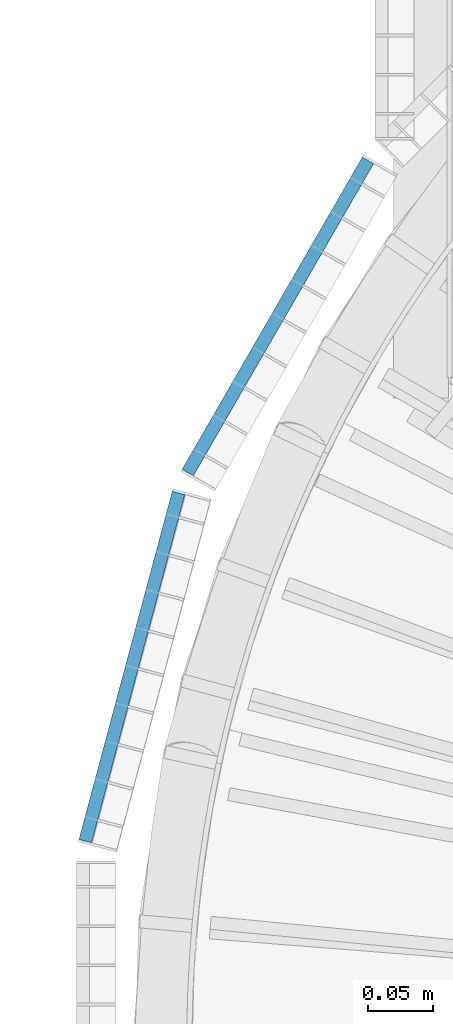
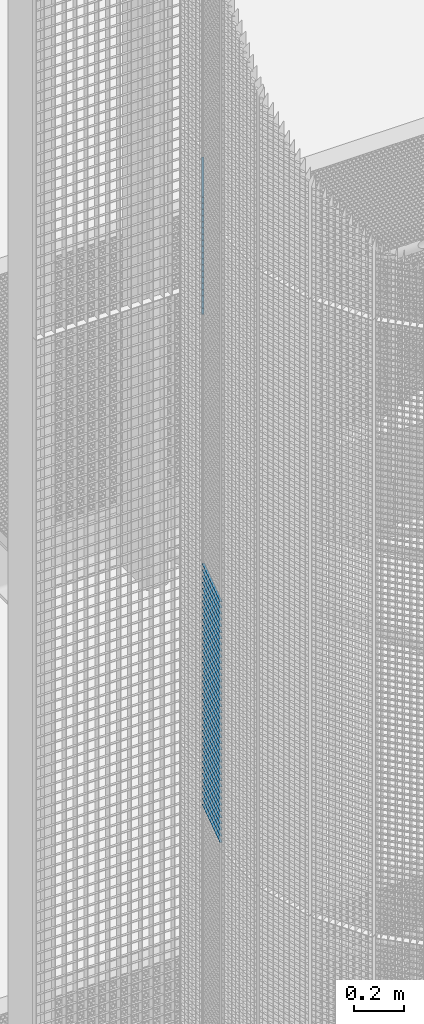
# One storey, part 191 of 1148: 60 beams, 2 elements without a shape of their own.
"""IFC2X3 building model written with IfcOpenShell, lengths in millimetres."""

from ifc_helpers import new_model, si_unit, frame, origin_with_axes, origin_2d_with_axis, place, context, subcontext, project, spatial, rectangle, extrude, material, type_object, element, aggregate, save


model = new_model("IFC2X3")

# Units and contexts
model_context = context("Model", 3, precision=1e-05, world=origin_with_axes())
body_context = subcontext(model_context, "Body", "Model", "MODEL_VIEW")
ifc_project = project(units=[si_unit("LENGTHUNIT", "METRE", prefix="MILLI"), si_unit("AREAUNIT", "SQUARE_METRE"), si_unit("VOLUMEUNIT", "CUBIC_METRE"), si_unit("MASSUNIT", "GRAM", prefix="KILO"), si_unit("TIMEUNIT", "SECOND"), si_unit("PLANEANGLEUNIT", "RADIAN"), si_unit("SOLIDANGLEUNIT", "STERADIAN"), si_unit("THERMODYNAMICTEMPERATUREUNIT", "DEGREE_CELSIUS"), si_unit("LUMINOUSINTENSITYUNIT", "LUMEN")], contexts=[model_context])

# Site, building, storey
site_placement = place(None, origin_with_axes())
site = spatial("IfcSite", under=ifc_project, at=site_placement, Name="Undefined", CompositionType="ELEMENT")
building_placement = place(site_placement, origin_with_axes())
building = spatial("IfcBuilding", under=site, at=building_placement, Name="Undefined", CompositionType="ELEMENT")
storey_placement = place(building_placement, origin_with_axes())
storey = spatial("IfcBuildingStorey", under=building, at=storey_placement, Name="Undefined", CompositionType="ELEMENT", Elevation=0.0)

# Assembly, beams
assembly_1_placement = place(storey_placement, origin_with_axes())
assembly_1 = element("IfcElementAssembly", 1, at=assembly_1_placement, inside=storey, Name="BORDURE", AssemblyPlace="NOTDEFINED", PredefinedType="NOTDEFINED")
ifc_material = material(Name="STEEL/S235JR")
beam_type = type_object("IfcBeamType", Name="PL2*10", PredefinedType="NOTDEFINED")
beam_1_placement = place(assembly_1_placement, frame((-1040.30888419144, 421.618038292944, 10200.0), z_axis=(-0.965925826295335, 0.258819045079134, 0.0), x_axis=(-0.258819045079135, -0.965925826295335, 0.0)))
beam_1 = element("IfcBeam", 2, at=beam_1_placement, type_object=beam_type, material=ifc_material, Name="ENTRETOISE", context=body_context, shape_type="SweptSolid", body=[
    extrude(rectangle(XDim=2.0, YDim=10.0, at=origin_2d_with_axis()), frame((275.999999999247, 9.09494701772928e-13, 1.53210777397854e-14), z_axis=(-1.0, 0.0, 0.0), x_axis=(0.0, -1.0, 0.0)), (0.0, 0.0, 1.0), 276.0),
])
beam_2_placement = place(assembly_1_placement, frame((-1040.30888419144, 421.618038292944, 10170.0), z_axis=(-0.965925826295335, 0.258819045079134, 0.0), x_axis=(-0.258819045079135, -0.965925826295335, 0.0)))
beam_2 = element("IfcBeam", 3, at=beam_2_placement, type_object=beam_type, material=ifc_material, Name="ENTRETOISE", context=body_context, shape_type="SweptSolid", body=[
    extrude(rectangle(XDim=2.0, YDim=10.0, at=origin_2d_with_axis()), frame((275.999999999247, 9.09494701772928e-13, 1.53210777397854e-14), z_axis=(-1.0, 0.0, 0.0), x_axis=(0.0, -1.0, 0.0)), (0.0, 0.0, 1.0), 276.0),
])
beam_3_placement = place(assembly_1_placement, frame((-1040.30888419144, 421.618038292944, 10140.0), z_axis=(-0.965925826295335, 0.258819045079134, 0.0), x_axis=(-0.258819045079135, -0.965925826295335, 0.0)))
beam_3 = element("IfcBeam", 4, at=beam_3_placement, type_object=beam_type, material=ifc_material, Name="ENTRETOISE", context=body_context, shape_type="SweptSolid", body=[
    extrude(rectangle(XDim=2.0, YDim=10.0, at=origin_2d_with_axis()), frame((275.999999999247, 9.09494701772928e-13, 1.53210777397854e-14), z_axis=(-1.0, 0.0, 0.0), x_axis=(0.0, -1.0, 0.0)), (0.0, 0.0, 1.0), 276.0),
])
beam_4_placement = place(assembly_1_placement, frame((-1040.30888419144, 421.618038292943, 9720.0), z_axis=(-0.965925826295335, 0.258819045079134, 0.0), x_axis=(-0.258819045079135, -0.965925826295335, 0.0)))
beam_4 = element("IfcBeam", 5, at=beam_4_placement, type_object=beam_type, material=ifc_material, Name="ENTRETOISE", context=body_context, shape_type="SweptSolid", body=[
    extrude(rectangle(XDim=2.0, YDim=10.0, at=origin_2d_with_axis()), frame((275.999999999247, 9.09494701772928e-13, 1.53210777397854e-14), z_axis=(-1.0, 0.0, 0.0), x_axis=(0.0, -1.0, 0.0)), (0.0, 0.0, 1.0), 276.0),
])
beam_5_placement = place(assembly_1_placement, frame((-1040.30888419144, 421.618038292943, 9690.0), z_axis=(-0.965925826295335, 0.258819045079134, 0.0), x_axis=(-0.258819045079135, -0.965925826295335, 0.0)))
beam_5 = element("IfcBeam", 6, at=beam_5_placement, type_object=beam_type, material=ifc_material, Name="ENTRETOISE", context=body_context, shape_type="SweptSolid", body=[
    extrude(rectangle(XDim=2.0, YDim=10.0, at=origin_2d_with_axis()), frame((275.999999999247, 9.09494701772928e-13, 1.53210777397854e-14), z_axis=(-1.0, 0.0, 0.0), x_axis=(0.0, -1.0, 0.0)), (0.0, 0.0, 1.0), 276.0),
])
beam_6_placement = place(assembly_1_placement, frame((-1040.30888419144, 421.618038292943, 9750.0), z_axis=(-0.965925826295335, 0.258819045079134, 0.0), x_axis=(-0.258819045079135, -0.965925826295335, 0.0)))
beam_6 = element("IfcBeam", 7, at=beam_6_placement, type_object=beam_type, material=ifc_material, Name="ENTRETOISE", context=body_context, shape_type="SweptSolid", body=[
    extrude(rectangle(XDim=2.0, YDim=10.0, at=origin_2d_with_axis()), frame((275.999999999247, 9.09494701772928e-13, 1.53210777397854e-14), z_axis=(-1.0, 0.0, 0.0), x_axis=(0.0, -1.0, 0.0)), (0.0, 0.0, 1.0), 276.0),
])
beam_7_placement = place(assembly_1_placement, frame((-1040.30888419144, 421.618038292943, 9660.0), z_axis=(-0.965925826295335, 0.258819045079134, 0.0), x_axis=(-0.258819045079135, -0.965925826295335, 0.0)))
beam_7 = element("IfcBeam", 8, at=beam_7_placement, type_object=beam_type, material=ifc_material, Name="ENTRETOISE", context=body_context, shape_type="SweptSolid", body=[
    extrude(rectangle(XDim=2.0, YDim=10.0, at=origin_2d_with_axis()), frame((275.999999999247, 9.09494701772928e-13, 1.53210777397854e-14), z_axis=(-1.0, 0.0, 0.0), x_axis=(0.0, -1.0, 0.0)), (0.0, 0.0, 1.0), 276.0),
])
beam_8_placement = place(assembly_1_placement, frame((-1040.30888419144, 421.618038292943, 9630.0), z_axis=(-0.965925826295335, 0.258819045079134, 0.0), x_axis=(-0.258819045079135, -0.965925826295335, 0.0)))
beam_8 = element("IfcBeam", 9, at=beam_8_placement, type_object=beam_type, material=ifc_material, Name="ENTRETOISE", context=body_context, shape_type="SweptSolid", body=[
    extrude(rectangle(XDim=2.0, YDim=10.0, at=origin_2d_with_axis()), frame((275.999999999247, 9.09494701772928e-13, 1.53210777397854e-14), z_axis=(-1.0, 0.0, 0.0), x_axis=(0.0, -1.0, 0.0)), (0.0, 0.0, 1.0), 276.0),
])
beam_9_placement = place(assembly_1_placement, frame((-1040.30888419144, 421.618038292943, 9780.0), z_axis=(-0.965925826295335, 0.258819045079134, 0.0), x_axis=(-0.258819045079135, -0.965925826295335, 0.0)))
beam_9 = element("IfcBeam", 10, at=beam_9_placement, type_object=beam_type, material=ifc_material, Name="ENTRETOISE", context=body_context, shape_type="SweptSolid", body=[
    extrude(rectangle(XDim=2.0, YDim=10.0, at=origin_2d_with_axis()), frame((275.999999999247, 9.09494701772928e-13, 1.53210777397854e-14), z_axis=(-1.0, 0.0, 0.0), x_axis=(0.0, -1.0, 0.0)), (0.0, 0.0, 1.0), 276.0),
])
beam_10_placement = place(assembly_1_placement, frame((-1040.30888419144, 421.618038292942, 9600.0), z_axis=(-0.965925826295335, 0.258819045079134, 0.0), x_axis=(-0.258819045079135, -0.965925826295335, 0.0)))
beam_10 = element("IfcBeam", 11, at=beam_10_placement, type_object=beam_type, material=ifc_material, Name="ENTRETOISE", context=body_context, shape_type="SweptSolid", body=[
    extrude(rectangle(XDim=2.0, YDim=10.0, at=origin_2d_with_axis()), frame((275.999999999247, 9.09494701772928e-13, 1.53210777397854e-14), z_axis=(-1.0, 0.0, 0.0), x_axis=(0.0, -1.0, 0.0)), (0.0, 0.0, 1.0), 276.0),
])
beam_11_placement = place(assembly_1_placement, frame((-1040.30888419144, 421.618038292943, 9810.0), z_axis=(-0.965925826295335, 0.258819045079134, 0.0), x_axis=(-0.258819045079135, -0.965925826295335, 0.0)))
beam_11 = element("IfcBeam", 12, at=beam_11_placement, type_object=beam_type, material=ifc_material, Name="ENTRETOISE", context=body_context, shape_type="SweptSolid", body=[
    extrude(rectangle(XDim=2.0, YDim=10.0, at=origin_2d_with_axis()), frame((275.999999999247, 9.09494701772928e-13, 1.53210777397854e-14), z_axis=(-1.0, 0.0, 0.0), x_axis=(0.0, -1.0, 0.0)), (0.0, 0.0, 1.0), 276.0),
])
beam_12_placement = place(assembly_1_placement, frame((-1040.30888419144, 421.618038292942, 9570.0), z_axis=(-0.965925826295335, 0.258819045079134, 0.0), x_axis=(-0.258819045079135, -0.965925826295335, 0.0)))
beam_12 = element("IfcBeam", 13, at=beam_12_placement, type_object=beam_type, material=ifc_material, Name="ENTRETOISE", context=body_context, shape_type="SweptSolid", body=[
    extrude(rectangle(XDim=2.0, YDim=10.0, at=origin_2d_with_axis()), frame((275.999999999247, 9.09494701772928e-13, 1.53210777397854e-14), z_axis=(-1.0, 0.0, 0.0), x_axis=(0.0, -1.0, 0.0)), (0.0, 0.0, 1.0), 276.0),
])
beam_13_placement = place(assembly_1_placement, frame((-1040.30888419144, 421.618038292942, 9540.0), z_axis=(-0.965925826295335, 0.258819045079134, 0.0), x_axis=(-0.258819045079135, -0.965925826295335, 0.0)))
beam_13 = element("IfcBeam", 14, at=beam_13_placement, type_object=beam_type, material=ifc_material, Name="ENTRETOISE", context=body_context, shape_type="SweptSolid", body=[
    extrude(rectangle(XDim=2.0, YDim=10.0, at=origin_2d_with_axis()), frame((275.999999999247, 9.09494701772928e-13, 1.53210777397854e-14), z_axis=(-1.0, 0.0, 0.0), x_axis=(0.0, -1.0, 0.0)), (0.0, 0.0, 1.0), 276.0),
])
beam_14_placement = place(assembly_1_placement, frame((-1040.30888419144, 421.618038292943, 9840.0), z_axis=(-0.965925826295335, 0.258819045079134, 0.0), x_axis=(-0.258819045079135, -0.965925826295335, 0.0)))
beam_14 = element("IfcBeam", 15, at=beam_14_placement, type_object=beam_type, material=ifc_material, Name="ENTRETOISE", context=body_context, shape_type="SweptSolid", body=[
    extrude(rectangle(XDim=2.0, YDim=10.0, at=origin_2d_with_axis()), frame((275.999999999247, 9.09494701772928e-13, 1.53210777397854e-14), z_axis=(-1.0, 0.0, 0.0), x_axis=(0.0, -1.0, 0.0)), (0.0, 0.0, 1.0), 276.0),
])
beam_15_placement = place(assembly_1_placement, frame((-1040.30888419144, 421.618038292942, 9510.0), z_axis=(-0.965925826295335, 0.258819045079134, 0.0), x_axis=(-0.258819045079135, -0.965925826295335, 0.0)))
beam_15 = element("IfcBeam", 16, at=beam_15_placement, type_object=beam_type, material=ifc_material, Name="ENTRETOISE", context=body_context, shape_type="SweptSolid", body=[
    extrude(rectangle(XDim=2.0, YDim=10.0, at=origin_2d_with_axis()), frame((275.999999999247, 9.09494701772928e-13, 1.53210777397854e-14), z_axis=(-1.0, 0.0, 0.0), x_axis=(0.0, -1.0, 0.0)), (0.0, 0.0, 1.0), 276.0),
])
beam_16_placement = place(assembly_1_placement, frame((-1040.30888419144, 421.618038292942, 9480.0), z_axis=(-0.965925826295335, 0.258819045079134, 0.0), x_axis=(-0.258819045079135, -0.965925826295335, 0.0)))
beam_16 = element("IfcBeam", 17, at=beam_16_placement, type_object=beam_type, material=ifc_material, Name="ENTRETOISE", context=body_context, shape_type="SweptSolid", body=[
    extrude(rectangle(XDim=2.0, YDim=10.0, at=origin_2d_with_axis()), frame((275.999999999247, 9.09494701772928e-13, 1.53210777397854e-14), z_axis=(-1.0, 0.0, 0.0), x_axis=(0.0, -1.0, 0.0)), (0.0, 0.0, 1.0), 276.0),
])
beam_17_placement = place(assembly_1_placement, frame((-1040.30888419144, 421.618038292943, 9870.0), z_axis=(-0.965925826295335, 0.258819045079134, 0.0), x_axis=(-0.258819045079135, -0.965925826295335, 0.0)))
beam_17 = element("IfcBeam", 18, at=beam_17_placement, type_object=beam_type, material=ifc_material, Name="ENTRETOISE", context=body_context, shape_type="SweptSolid", body=[
    extrude(rectangle(XDim=2.0, YDim=10.0, at=origin_2d_with_axis()), frame((275.999999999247, 9.09494701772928e-13, 1.53210777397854e-14), z_axis=(-1.0, 0.0, 0.0), x_axis=(0.0, -1.0, 0.0)), (0.0, 0.0, 1.0), 276.0),
])
beam_18_placement = place(assembly_1_placement, frame((-1040.30888419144, 421.618038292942, 9450.0), z_axis=(-0.965925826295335, 0.258819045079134, 0.0), x_axis=(-0.258819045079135, -0.965925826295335, 0.0)))
beam_18 = element("IfcBeam", 19, at=beam_18_placement, type_object=beam_type, material=ifc_material, Name="ENTRETOISE", context=body_context, shape_type="SweptSolid", body=[
    extrude(rectangle(XDim=2.0, YDim=10.0, at=origin_2d_with_axis()), frame((275.999999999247, 9.09494701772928e-13, 1.53210777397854e-14), z_axis=(-1.0, 0.0, 0.0), x_axis=(0.0, -1.0, 0.0)), (0.0, 0.0, 1.0), 276.0),
])
beam_19_placement = place(assembly_1_placement, frame((-1040.30888419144, 421.618038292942, 9420.0), z_axis=(-0.965925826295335, 0.258819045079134, 0.0), x_axis=(-0.258819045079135, -0.965925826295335, 0.0)))
beam_19 = element("IfcBeam", 20, at=beam_19_placement, type_object=beam_type, material=ifc_material, Name="ENTRETOISE", context=body_context, shape_type="SweptSolid", body=[
    extrude(rectangle(XDim=2.0, YDim=10.0, at=origin_2d_with_axis()), frame((275.999999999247, 9.09494701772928e-13, 1.53210777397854e-14), z_axis=(-1.0, 0.0, 0.0), x_axis=(0.0, -1.0, 0.0)), (0.0, 0.0, 1.0), 276.0),
])
beam_20_placement = place(assembly_1_placement, frame((-1040.30888419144, 421.618038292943, 9900.0), z_axis=(-0.965925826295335, 0.258819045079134, 0.0), x_axis=(-0.258819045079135, -0.965925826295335, 0.0)))
beam_20 = element("IfcBeam", 21, at=beam_20_placement, type_object=beam_type, material=ifc_material, Name="ENTRETOISE", context=body_context, shape_type="SweptSolid", body=[
    extrude(rectangle(XDim=2.0, YDim=10.0, at=origin_2d_with_axis()), frame((275.999999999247, 9.09494701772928e-13, 1.53210777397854e-14), z_axis=(-1.0, 0.0, 0.0), x_axis=(0.0, -1.0, 0.0)), (0.0, 0.0, 1.0), 276.0),
])
beam_21_placement = place(assembly_1_placement, frame((-1040.30888419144, 421.618038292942, 9390.0), z_axis=(-0.965925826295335, 0.258819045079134, 0.0), x_axis=(-0.258819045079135, -0.965925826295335, 0.0)))
beam_21 = element("IfcBeam", 22, at=beam_21_placement, type_object=beam_type, material=ifc_material, Name="ENTRETOISE", context=body_context, shape_type="SweptSolid", body=[
    extrude(rectangle(XDim=2.0, YDim=10.0, at=origin_2d_with_axis()), frame((275.999999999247, 9.09494701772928e-13, 1.53210777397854e-14), z_axis=(-1.0, 0.0, 0.0), x_axis=(0.0, -1.0, 0.0)), (0.0, 0.0, 1.0), 276.0),
])
beam_22_placement = place(assembly_1_placement, frame((-1040.30888419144, 421.618038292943, 9930.0), z_axis=(-0.965925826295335, 0.258819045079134, 0.0), x_axis=(-0.258819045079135, -0.965925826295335, 0.0)))
beam_22 = element("IfcBeam", 23, at=beam_22_placement, type_object=beam_type, material=ifc_material, Name="ENTRETOISE", context=body_context, shape_type="SweptSolid", body=[
    extrude(rectangle(XDim=2.0, YDim=10.0, at=origin_2d_with_axis()), frame((275.999999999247, 9.09494701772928e-13, 1.53210777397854e-14), z_axis=(-1.0, 0.0, 0.0), x_axis=(0.0, -1.0, 0.0)), (0.0, 0.0, 1.0), 276.0),
])
beam_23_placement = place(assembly_1_placement, frame((-1040.30888419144, 421.618038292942, 9360.0), z_axis=(-0.965925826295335, 0.258819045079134, 0.0), x_axis=(-0.258819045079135, -0.965925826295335, 0.0)))
beam_23 = element("IfcBeam", 24, at=beam_23_placement, type_object=beam_type, material=ifc_material, Name="ENTRETOISE", context=body_context, shape_type="SweptSolid", body=[
    extrude(rectangle(XDim=2.0, YDim=10.0, at=origin_2d_with_axis()), frame((275.999999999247, 9.09494701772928e-13, 1.53210777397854e-14), z_axis=(-1.0, 0.0, 0.0), x_axis=(0.0, -1.0, 0.0)), (0.0, 0.0, 1.0), 276.0),
])
beam_24_placement = place(assembly_1_placement, frame((-1040.30888419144, 421.618038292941, 9330.0), z_axis=(-0.965925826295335, 0.258819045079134, 0.0), x_axis=(-0.258819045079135, -0.965925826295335, 0.0)))
beam_24 = element("IfcBeam", 25, at=beam_24_placement, type_object=beam_type, material=ifc_material, Name="ENTRETOISE", context=body_context, shape_type="SweptSolid", body=[
    extrude(rectangle(XDim=2.0, YDim=10.0, at=origin_2d_with_axis()), frame((275.999999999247, 9.09494701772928e-13, 1.53210777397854e-14), z_axis=(-1.0, 0.0, 0.0), x_axis=(0.0, -1.0, 0.0)), (0.0, 0.0, 1.0), 276.0),
])
beam_25_placement = place(assembly_1_placement, frame((-1040.30888419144, 421.618038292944, 9960.0), z_axis=(-0.965925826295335, 0.258819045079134, 0.0), x_axis=(-0.258819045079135, -0.965925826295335, 0.0)))
beam_25 = element("IfcBeam", 26, at=beam_25_placement, type_object=beam_type, material=ifc_material, Name="ENTRETOISE", context=body_context, shape_type="SweptSolid", body=[
    extrude(rectangle(XDim=2.0, YDim=10.0, at=origin_2d_with_axis()), frame((275.999999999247, 9.09494701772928e-13, 1.53210777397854e-14), z_axis=(-1.0, 0.0, 0.0), x_axis=(0.0, -1.0, 0.0)), (0.0, 0.0, 1.0), 276.0),
])
beam_26_placement = place(assembly_1_placement, frame((-1040.30888419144, 421.618038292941, 9300.0), z_axis=(-0.965925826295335, 0.258819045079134, 0.0), x_axis=(-0.258819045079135, -0.965925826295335, 0.0)))
beam_26 = element("IfcBeam", 27, at=beam_26_placement, type_object=beam_type, material=ifc_material, Name="ENTRETOISE", context=body_context, shape_type="SweptSolid", body=[
    extrude(rectangle(XDim=2.0, YDim=10.0, at=origin_2d_with_axis()), frame((275.999999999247, 9.09494701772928e-13, 1.53210777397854e-14), z_axis=(-1.0, 0.0, 0.0), x_axis=(0.0, -1.0, 0.0)), (0.0, 0.0, 1.0), 276.0),
])
beam_27_placement = place(assembly_1_placement, frame((-1040.30888419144, 421.618038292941, 9270.0), z_axis=(-0.965925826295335, 0.258819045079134, 0.0), x_axis=(-0.258819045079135, -0.965925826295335, 0.0)))
beam_27 = element("IfcBeam", 28, at=beam_27_placement, type_object=beam_type, material=ifc_material, Name="ENTRETOISE", context=body_context, shape_type="SweptSolid", body=[
    extrude(rectangle(XDim=2.0, YDim=10.0, at=origin_2d_with_axis()), frame((275.999999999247, 9.09494701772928e-13, 1.53210777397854e-14), z_axis=(-1.0, 0.0, 0.0), x_axis=(0.0, -1.0, 0.0)), (0.0, 0.0, 1.0), 276.0),
])
beam_28_placement = place(assembly_1_placement, frame((-1040.30888419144, 421.618038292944, 9990.0), z_axis=(-0.965925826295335, 0.258819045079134, 0.0), x_axis=(-0.258819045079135, -0.965925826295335, 0.0)))
beam_28 = element("IfcBeam", 29, at=beam_28_placement, type_object=beam_type, material=ifc_material, Name="ENTRETOISE", context=body_context, shape_type="SweptSolid", body=[
    extrude(rectangle(XDim=2.0, YDim=10.0, at=origin_2d_with_axis()), frame((275.999999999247, 9.09494701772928e-13, 1.53210777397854e-14), z_axis=(-1.0, 0.0, 0.0), x_axis=(0.0, -1.0, 0.0)), (0.0, 0.0, 1.0), 276.0),
])
beam_29_placement = place(assembly_1_placement, frame((-1040.30888419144, 421.618038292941, 9240.0), z_axis=(-0.965925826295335, 0.258819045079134, 0.0), x_axis=(-0.258819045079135, -0.965925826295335, 0.0)))
beam_29 = element("IfcBeam", 30, at=beam_29_placement, type_object=beam_type, material=ifc_material, Name="ENTRETOISE", context=body_context, shape_type="SweptSolid", body=[
    extrude(rectangle(XDim=2.0, YDim=10.0, at=origin_2d_with_axis()), frame((275.999999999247, 9.09494701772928e-13, 1.53210777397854e-14), z_axis=(-1.0, 0.0, 0.0), x_axis=(0.0, -1.0, 0.0)), (0.0, 0.0, 1.0), 276.0),
])
beam_30_placement = place(assembly_1_placement, frame((-1040.30888419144, 421.618038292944, 10020.0), z_axis=(-0.965925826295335, 0.258819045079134, 0.0), x_axis=(-0.258819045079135, -0.965925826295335, 0.0)))
beam_30 = element("IfcBeam", 31, at=beam_30_placement, type_object=beam_type, material=ifc_material, Name="ENTRETOISE", context=body_context, shape_type="SweptSolid", body=[
    extrude(rectangle(XDim=2.0, YDim=10.0, at=origin_2d_with_axis()), frame((275.999999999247, 9.09494701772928e-13, 1.53210777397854e-14), z_axis=(-1.0, 0.0, 0.0), x_axis=(0.0, -1.0, 0.0)), (0.0, 0.0, 1.0), 276.0),
])
beam_31_placement = place(assembly_1_placement, frame((-1040.30888419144, 421.618038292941, 9210.0), z_axis=(-0.965925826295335, 0.258819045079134, 0.0), x_axis=(-0.258819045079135, -0.965925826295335, 0.0)))
beam_31 = element("IfcBeam", 32, at=beam_31_placement, type_object=beam_type, material=ifc_material, Name="ENTRETOISE", context=body_context, shape_type="SweptSolid", body=[
    extrude(rectangle(XDim=2.0, YDim=10.0, at=origin_2d_with_axis()), frame((275.999999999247, 9.09494701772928e-13, 1.53210777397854e-14), z_axis=(-1.0, 0.0, 0.0), x_axis=(0.0, -1.0, 0.0)), (0.0, 0.0, 1.0), 276.0),
])
beam_32_placement = place(assembly_1_placement, frame((-1040.30888419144, 421.618038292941, 9180.0), z_axis=(-0.965925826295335, 0.258819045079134, 0.0), x_axis=(-0.258819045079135, -0.965925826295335, 0.0)))
beam_32 = element("IfcBeam", 33, at=beam_32_placement, type_object=beam_type, material=ifc_material, Name="ENTRETOISE", context=body_context, shape_type="SweptSolid", body=[
    extrude(rectangle(XDim=2.0, YDim=10.0, at=origin_2d_with_axis()), frame((275.999999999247, 9.09494701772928e-13, 1.53210777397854e-14), z_axis=(-1.0, 0.0, 0.0), x_axis=(0.0, -1.0, 0.0)), (0.0, 0.0, 1.0), 276.0),
])
beam_33_placement = place(assembly_1_placement, frame((-1040.30888419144, 421.618038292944, 10050.0), z_axis=(-0.965925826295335, 0.258819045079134, 0.0), x_axis=(-0.258819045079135, -0.965925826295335, 0.0)))
beam_33 = element("IfcBeam", 34, at=beam_33_placement, type_object=beam_type, material=ifc_material, Name="ENTRETOISE", context=body_context, shape_type="SweptSolid", body=[
    extrude(rectangle(XDim=2.0, YDim=10.0, at=origin_2d_with_axis()), frame((275.999999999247, 9.09494701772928e-13, 1.53210777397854e-14), z_axis=(-1.0, 0.0, 0.0), x_axis=(0.0, -1.0, 0.0)), (0.0, 0.0, 1.0), 276.0),
])
beam_34_placement = place(assembly_1_placement, frame((-1040.30888419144, 421.618038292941, 9150.0), z_axis=(-0.965925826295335, 0.258819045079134, 0.0), x_axis=(-0.258819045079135, -0.965925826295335, 0.0)))
beam_34 = element("IfcBeam", 35, at=beam_34_placement, type_object=beam_type, material=ifc_material, Name="ENTRETOISE", context=body_context, shape_type="SweptSolid", body=[
    extrude(rectangle(XDim=2.0, YDim=10.0, at=origin_2d_with_axis()), frame((275.999999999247, 9.09494701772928e-13, 1.53210777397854e-14), z_axis=(-1.0, 0.0, 0.0), x_axis=(0.0, -1.0, 0.0)), (0.0, 0.0, 1.0), 276.0),
])
beam_35_placement = place(assembly_1_placement, frame((-1040.30888419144, 421.618038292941, 9120.0), z_axis=(-0.965925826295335, 0.258819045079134, 0.0), x_axis=(-0.258819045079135, -0.965925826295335, 0.0)))
beam_35 = element("IfcBeam", 36, at=beam_35_placement, type_object=beam_type, material=ifc_material, Name="ENTRETOISE", context=body_context, shape_type="SweptSolid", body=[
    extrude(rectangle(XDim=2.0, YDim=10.0, at=origin_2d_with_axis()), frame((275.999999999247, 9.09494701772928e-13, 1.53210777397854e-14), z_axis=(-1.0, 0.0, 0.0), x_axis=(0.0, -1.0, 0.0)), (0.0, 0.0, 1.0), 276.0),
])
beam_36_placement = place(assembly_1_placement, frame((-1040.30888419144, 421.618038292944, 10080.0), z_axis=(-0.965925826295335, 0.258819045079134, 0.0), x_axis=(-0.258819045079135, -0.965925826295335, 0.0)))
beam_36 = element("IfcBeam", 37, at=beam_36_placement, type_object=beam_type, material=ifc_material, Name="ENTRETOISE", context=body_context, shape_type="SweptSolid", body=[
    extrude(rectangle(XDim=2.0, YDim=10.0, at=origin_2d_with_axis()), frame((275.999999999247, 9.09494701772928e-13, 1.53210777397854e-14), z_axis=(-1.0, 0.0, 0.0), x_axis=(0.0, -1.0, 0.0)), (0.0, 0.0, 1.0), 276.0),
])
beam_37_placement = place(assembly_1_placement, frame((-1040.30888419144, 421.618038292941, 9090.0), z_axis=(-0.965925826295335, 0.258819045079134, 0.0), x_axis=(-0.258819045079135, -0.965925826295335, 0.0)))
beam_37 = element("IfcBeam", 38, at=beam_37_placement, type_object=beam_type, material=ifc_material, Name="ENTRETOISE", context=body_context, shape_type="SweptSolid", body=[
    extrude(rectangle(XDim=2.0, YDim=10.0, at=origin_2d_with_axis()), frame((275.999999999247, 9.09494701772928e-13, 1.53210777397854e-14), z_axis=(-1.0, 0.0, 0.0), x_axis=(0.0, -1.0, 0.0)), (0.0, 0.0, 1.0), 276.0),
])
beam_38_placement = place(assembly_1_placement, frame((-1040.30888419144, 421.618038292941, 9060.0), z_axis=(-0.965925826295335, 0.258819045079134, 0.0), x_axis=(-0.258819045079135, -0.965925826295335, 0.0)))
beam_38 = element("IfcBeam", 39, at=beam_38_placement, type_object=beam_type, material=ifc_material, Name="ENTRETOISE", context=body_context, shape_type="SweptSolid", body=[
    extrude(rectangle(XDim=2.0, YDim=10.0, at=origin_2d_with_axis()), frame((275.999999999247, 9.09494701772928e-13, 1.53210777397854e-14), z_axis=(-1.0, 0.0, 0.0), x_axis=(0.0, -1.0, 0.0)), (0.0, 0.0, 1.0), 276.0),
])
beam_39_placement = place(assembly_1_placement, frame((-1040.30888419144, 421.618038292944, 10110.0), z_axis=(-0.965925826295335, 0.258819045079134, 0.0), x_axis=(-0.258819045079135, -0.965925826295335, 0.0)))
beam_39 = element("IfcBeam", 40, at=beam_39_placement, type_object=beam_type, material=ifc_material, Name="ENTRETOISE", context=body_context, shape_type="SweptSolid", body=[
    extrude(rectangle(XDim=2.0, YDim=10.0, at=origin_2d_with_axis()), frame((275.999999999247, 9.09494701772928e-13, 1.53210777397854e-14), z_axis=(-1.0, 0.0, 0.0), x_axis=(0.0, -1.0, 0.0)), (0.0, 0.0, 1.0), 276.0),
])
beam_40_placement = place(assembly_1_placement, frame((-1040.30888419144, 421.618038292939, 9030.0), z_axis=(-0.965925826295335, 0.258819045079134, 0.0), x_axis=(-0.258819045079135, -0.965925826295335, 0.0)))
beam_40 = element("IfcBeam", 41, at=beam_40_placement, type_object=beam_type, material=ifc_material, Name="ENTRETOISE", context=body_context, shape_type="SweptSolid", body=[
    extrude(rectangle(XDim=2.0, YDim=10.0, at=origin_2d_with_axis()), frame((275.999999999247, 9.09494701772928e-13, 1.53210777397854e-14), z_axis=(-1.0, 0.0, 0.0), x_axis=(0.0, -1.0, 0.0)), (0.0, 0.0, 1.0), 276.0),
])
aggregate(assembly_1, [beam_1, beam_2, beam_3, beam_4, beam_5, beam_6, beam_7, beam_8, beam_9, beam_10, beam_11, beam_12, beam_13, beam_14, beam_15, beam_16, beam_17, beam_18, beam_19, beam_20, beam_21, beam_22, beam_23, beam_24, beam_25, beam_26, beam_27, beam_28, beam_29, beam_30, beam_31, beam_32, beam_33, beam_34, beam_35, beam_36, beam_37, beam_38, beam_39, beam_40])

assembly_2_placement = place(storey_placement, origin_with_axes())
assembly_2 = element("IfcElementAssembly", 42, at=assembly_2_placement, inside=storey, Name="BORDURE", AssemblyPlace="NOTDEFINED", PredefinedType="NOTDEFINED")
beam_41_placement = place(assembly_2_placement, frame((-895.303964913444, 676.248044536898, 11970.0), z_axis=(-0.866025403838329, 0.499999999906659, 0.0), x_axis=(-0.49999999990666, -0.866025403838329, 0.0)))
beam_41 = element("IfcBeam", 43, at=beam_41_placement, type_object=beam_type, material=ifc_material, Name="ENTRETOISE", context=body_context, shape_type="SweptSolid", body=[
    extrude(rectangle(XDim=2.0, YDim=10.0, at=origin_2d_with_axis()), frame((275.999999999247, 9.09494701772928e-13, 1.53210777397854e-14), z_axis=(-1.0, 0.0, 0.0), x_axis=(0.0, -1.0, 0.0)), (0.0, 0.0, 1.0), 276.0),
])
beam_42_placement = place(assembly_2_placement, frame((-895.303964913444, 676.248044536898, 11940.0), z_axis=(-0.866025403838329, 0.499999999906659, 0.0), x_axis=(-0.49999999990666, -0.866025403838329, 0.0)))
beam_42 = element("IfcBeam", 44, at=beam_42_placement, type_object=beam_type, material=ifc_material, Name="ENTRETOISE", context=body_context, shape_type="SweptSolid", body=[
    extrude(rectangle(XDim=2.0, YDim=10.0, at=origin_2d_with_axis()), frame((275.999999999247, 9.09494701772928e-13, 1.53210777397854e-14), z_axis=(-1.0, 0.0, 0.0), x_axis=(0.0, -1.0, 0.0)), (0.0, 0.0, 1.0), 276.0),
])
beam_43_placement = place(assembly_2_placement, frame((-895.303964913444, 676.248044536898, 11910.0), z_axis=(-0.866025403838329, 0.499999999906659, 0.0), x_axis=(-0.49999999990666, -0.866025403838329, 0.0)))
beam_43 = element("IfcBeam", 45, at=beam_43_placement, type_object=beam_type, material=ifc_material, Name="ENTRETOISE", context=body_context, shape_type="SweptSolid", body=[
    extrude(rectangle(XDim=2.0, YDim=10.0, at=origin_2d_with_axis()), frame((275.999999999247, 9.09494701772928e-13, 1.53210777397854e-14), z_axis=(-1.0, 0.0, 0.0), x_axis=(0.0, -1.0, 0.0)), (0.0, 0.0, 1.0), 276.0),
])
beam_44_placement = place(assembly_2_placement, frame((-895.303964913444, 676.248044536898, 11880.0), z_axis=(-0.866025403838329, 0.499999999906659, 0.0), x_axis=(-0.49999999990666, -0.866025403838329, 0.0)))
beam_44 = element("IfcBeam", 46, at=beam_44_placement, type_object=beam_type, material=ifc_material, Name="ENTRETOISE", context=body_context, shape_type="SweptSolid", body=[
    extrude(rectangle(XDim=2.0, YDim=10.0, at=origin_2d_with_axis()), frame((275.999999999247, 9.09494701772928e-13, 1.53210777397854e-14), z_axis=(-1.0, 0.0, 0.0), x_axis=(0.0, -1.0, 0.0)), (0.0, 0.0, 1.0), 276.0),
])
beam_45_placement = place(assembly_2_placement, frame((-895.303964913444, 676.248044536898, 11850.0), z_axis=(-0.866025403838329, 0.499999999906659, 0.0), x_axis=(-0.49999999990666, -0.866025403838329, 0.0)))
beam_45 = element("IfcBeam", 47, at=beam_45_placement, type_object=beam_type, material=ifc_material, Name="ENTRETOISE", context=body_context, shape_type="SweptSolid", body=[
    extrude(rectangle(XDim=2.0, YDim=10.0, at=origin_2d_with_axis()), frame((275.999999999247, 9.09494701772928e-13, 1.53210777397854e-14), z_axis=(-1.0, 0.0, 0.0), x_axis=(0.0, -1.0, 0.0)), (0.0, 0.0, 1.0), 276.0),
])
beam_46_placement = place(assembly_2_placement, frame((-895.303964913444, 676.248044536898, 11820.0), z_axis=(-0.866025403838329, 0.499999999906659, 0.0), x_axis=(-0.49999999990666, -0.866025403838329, 0.0)))
beam_46 = element("IfcBeam", 48, at=beam_46_placement, type_object=beam_type, material=ifc_material, Name="ENTRETOISE", context=body_context, shape_type="SweptSolid", body=[
    extrude(rectangle(XDim=2.0, YDim=10.0, at=origin_2d_with_axis()), frame((275.999999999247, 9.09494701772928e-13, 1.53210777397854e-14), z_axis=(-1.0, 0.0, 0.0), x_axis=(0.0, -1.0, 0.0)), (0.0, 0.0, 1.0), 276.0),
])
beam_47_placement = place(assembly_2_placement, frame((-895.303964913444, 676.248044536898, 11790.0), z_axis=(-0.866025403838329, 0.499999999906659, 0.0), x_axis=(-0.49999999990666, -0.866025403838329, 0.0)))
beam_47 = element("IfcBeam", 49, at=beam_47_placement, type_object=beam_type, material=ifc_material, Name="ENTRETOISE", context=body_context, shape_type="SweptSolid", body=[
    extrude(rectangle(XDim=2.0, YDim=10.0, at=origin_2d_with_axis()), frame((275.999999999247, 9.09494701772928e-13, 1.53210777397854e-14), z_axis=(-1.0, 0.0, 0.0), x_axis=(0.0, -1.0, 0.0)), (0.0, 0.0, 1.0), 276.0),
])
beam_48_placement = place(assembly_2_placement, frame((-895.303964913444, 676.248044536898, 11760.0), z_axis=(-0.866025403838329, 0.499999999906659, 0.0), x_axis=(-0.49999999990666, -0.866025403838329, 0.0)))
beam_48 = element("IfcBeam", 50, at=beam_48_placement, type_object=beam_type, material=ifc_material, Name="ENTRETOISE", context=body_context, shape_type="SweptSolid", body=[
    extrude(rectangle(XDim=2.0, YDim=10.0, at=origin_2d_with_axis()), frame((275.999999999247, 9.09494701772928e-13, 1.53210777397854e-14), z_axis=(-1.0, 0.0, 0.0), x_axis=(0.0, -1.0, 0.0)), (0.0, 0.0, 1.0), 276.0),
])
beam_49_placement = place(assembly_2_placement, frame((-895.303964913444, 676.248044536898, 11730.0), z_axis=(-0.866025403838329, 0.499999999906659, 0.0), x_axis=(-0.49999999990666, -0.866025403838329, 0.0)))
beam_49 = element("IfcBeam", 51, at=beam_49_placement, type_object=beam_type, material=ifc_material, Name="ENTRETOISE", context=body_context, shape_type="SweptSolid", body=[
    extrude(rectangle(XDim=2.0, YDim=10.0, at=origin_2d_with_axis()), frame((275.999999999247, 9.09494701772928e-13, 1.53210777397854e-14), z_axis=(-1.0, 0.0, 0.0), x_axis=(0.0, -1.0, 0.0)), (0.0, 0.0, 1.0), 276.0),
])
beam_50_placement = place(assembly_2_placement, frame((-895.303964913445, 676.248044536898, 11700.0), z_axis=(-0.866025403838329, 0.499999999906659, 0.0), x_axis=(-0.49999999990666, -0.866025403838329, 0.0)))
beam_50 = element("IfcBeam", 52, at=beam_50_placement, type_object=beam_type, material=ifc_material, Name="ENTRETOISE", context=body_context, shape_type="SweptSolid", body=[
    extrude(rectangle(XDim=2.0, YDim=10.0, at=origin_2d_with_axis()), frame((275.999999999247, 9.09494701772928e-13, 1.53210777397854e-14), z_axis=(-1.0, 0.0, 0.0), x_axis=(0.0, -1.0, 0.0)), (0.0, 0.0, 1.0), 276.0),
])
beam_51_placement = place(assembly_2_placement, frame((-895.303964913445, 676.248044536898, 11670.0), z_axis=(-0.866025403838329, 0.499999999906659, 0.0), x_axis=(-0.49999999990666, -0.866025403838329, 0.0)))
beam_51 = element("IfcBeam", 53, at=beam_51_placement, type_object=beam_type, material=ifc_material, Name="ENTRETOISE", context=body_context, shape_type="SweptSolid", body=[
    extrude(rectangle(XDim=2.0, YDim=10.0, at=origin_2d_with_axis()), frame((275.999999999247, 9.09494701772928e-13, 1.53210777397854e-14), z_axis=(-1.0, 0.0, 0.0), x_axis=(0.0, -1.0, 0.0)), (0.0, 0.0, 1.0), 276.0),
])
beam_52_placement = place(assembly_2_placement, frame((-895.303964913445, 676.248044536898, 11640.0), z_axis=(-0.866025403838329, 0.499999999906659, 0.0), x_axis=(-0.49999999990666, -0.866025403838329, 0.0)))
beam_52 = element("IfcBeam", 54, at=beam_52_placement, type_object=beam_type, material=ifc_material, Name="ENTRETOISE", context=body_context, shape_type="SweptSolid", body=[
    extrude(rectangle(XDim=2.0, YDim=10.0, at=origin_2d_with_axis()), frame((275.999999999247, 9.09494701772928e-13, 1.53210777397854e-14), z_axis=(-1.0, 0.0, 0.0), x_axis=(0.0, -1.0, 0.0)), (0.0, 0.0, 1.0), 276.0),
])
beam_53_placement = place(assembly_2_placement, frame((-895.303964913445, 676.248044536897, 11610.0), z_axis=(-0.866025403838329, 0.499999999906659, 0.0), x_axis=(-0.49999999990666, -0.866025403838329, 0.0)))
beam_53 = element("IfcBeam", 55, at=beam_53_placement, type_object=beam_type, material=ifc_material, Name="ENTRETOISE", context=body_context, shape_type="SweptSolid", body=[
    extrude(rectangle(XDim=2.0, YDim=10.0, at=origin_2d_with_axis()), frame((275.999999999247, 9.09494701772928e-13, 1.53210777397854e-14), z_axis=(-1.0, 0.0, 0.0), x_axis=(0.0, -1.0, 0.0)), (0.0, 0.0, 1.0), 276.0),
])
beam_54_placement = place(assembly_2_placement, frame((-895.303964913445, 676.248044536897, 11580.0), z_axis=(-0.866025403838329, 0.499999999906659, 0.0), x_axis=(-0.49999999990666, -0.866025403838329, 0.0)))
beam_54 = element("IfcBeam", 56, at=beam_54_placement, type_object=beam_type, material=ifc_material, Name="ENTRETOISE", context=body_context, shape_type="SweptSolid", body=[
    extrude(rectangle(XDim=2.0, YDim=10.0, at=origin_2d_with_axis()), frame((275.999999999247, 9.09494701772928e-13, 1.53210777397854e-14), z_axis=(-1.0, 0.0, 0.0), x_axis=(0.0, -1.0, 0.0)), (0.0, 0.0, 1.0), 276.0),
])
beam_55_placement = place(assembly_2_placement, frame((-895.303964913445, 676.248044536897, 11550.0), z_axis=(-0.866025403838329, 0.499999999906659, 0.0), x_axis=(-0.49999999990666, -0.866025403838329, 0.0)))
beam_55 = element("IfcBeam", 57, at=beam_55_placement, type_object=beam_type, material=ifc_material, Name="ENTRETOISE", context=body_context, shape_type="SweptSolid", body=[
    extrude(rectangle(XDim=2.0, YDim=10.0, at=origin_2d_with_axis()), frame((275.999999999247, 9.09494701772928e-13, 1.53210777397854e-14), z_axis=(-1.0, 0.0, 0.0), x_axis=(0.0, -1.0, 0.0)), (0.0, 0.0, 1.0), 276.0),
])
beam_56_placement = place(assembly_2_placement, frame((-895.303964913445, 676.248044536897, 11520.0), z_axis=(-0.866025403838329, 0.499999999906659, 0.0), x_axis=(-0.49999999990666, -0.866025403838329, 0.0)))
beam_56 = element("IfcBeam", 58, at=beam_56_placement, type_object=beam_type, material=ifc_material, Name="ENTRETOISE", context=body_context, shape_type="SweptSolid", body=[
    extrude(rectangle(XDim=2.0, YDim=10.0, at=origin_2d_with_axis()), frame((275.999999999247, 9.09494701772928e-13, 1.53210777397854e-14), z_axis=(-1.0, 0.0, 0.0), x_axis=(0.0, -1.0, 0.0)), (0.0, 0.0, 1.0), 276.0),
])
beam_57_placement = place(assembly_2_placement, frame((-895.303964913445, 676.248044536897, 11490.0), z_axis=(-0.866025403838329, 0.499999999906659, 0.0), x_axis=(-0.49999999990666, -0.866025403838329, 0.0)))
beam_57 = element("IfcBeam", 59, at=beam_57_placement, type_object=beam_type, material=ifc_material, Name="ENTRETOISE", context=body_context, shape_type="SweptSolid", body=[
    extrude(rectangle(XDim=2.0, YDim=10.0, at=origin_2d_with_axis()), frame((275.999999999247, 9.09494701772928e-13, 1.53210777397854e-14), z_axis=(-1.0, 0.0, 0.0), x_axis=(0.0, -1.0, 0.0)), (0.0, 0.0, 1.0), 276.0),
])
beam_58_placement = place(assembly_2_placement, frame((-895.303964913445, 676.248044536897, 11460.0), z_axis=(-0.866025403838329, 0.499999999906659, 0.0), x_axis=(-0.49999999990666, -0.866025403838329, 0.0)))
beam_58 = element("IfcBeam", 60, at=beam_58_placement, type_object=beam_type, material=ifc_material, Name="ENTRETOISE", context=body_context, shape_type="SweptSolid", body=[
    extrude(rectangle(XDim=2.0, YDim=10.0, at=origin_2d_with_axis()), frame((275.999999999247, 9.09494701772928e-13, 1.53210777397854e-14), z_axis=(-1.0, 0.0, 0.0), x_axis=(0.0, -1.0, 0.0)), (0.0, 0.0, 1.0), 276.0),
])
beam_59_placement = place(assembly_2_placement, frame((-895.303964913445, 676.248044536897, 11430.0), z_axis=(-0.866025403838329, 0.499999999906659, 0.0), x_axis=(-0.49999999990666, -0.866025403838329, 0.0)))
beam_59 = element("IfcBeam", 61, at=beam_59_placement, type_object=beam_type, material=ifc_material, Name="ENTRETOISE", context=body_context, shape_type="SweptSolid", body=[
    extrude(rectangle(XDim=2.0, YDim=10.0, at=origin_2d_with_axis()), frame((275.999999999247, 9.09494701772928e-13, 1.53210777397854e-14), z_axis=(-1.0, 0.0, 0.0), x_axis=(0.0, -1.0, 0.0)), (0.0, 0.0, 1.0), 276.0),
])
beam_60_placement = place(assembly_2_placement, frame((-895.303964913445, 676.248044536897, 11400.0), z_axis=(-0.866025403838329, 0.499999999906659, 0.0), x_axis=(-0.49999999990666, -0.866025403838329, 0.0)))
beam_60 = element("IfcBeam", 62, at=beam_60_placement, type_object=beam_type, material=ifc_material, Name="ENTRETOISE", context=body_context, shape_type="SweptSolid", body=[
    extrude(rectangle(XDim=2.0, YDim=10.0, at=origin_2d_with_axis()), frame((275.999999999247, 9.09494701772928e-13, 1.53210777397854e-14), z_axis=(-1.0, 0.0, 0.0), x_axis=(0.0, -1.0, 0.0)), (0.0, 0.0, 1.0), 276.0),
])
aggregate(assembly_2, [beam_41, beam_42, beam_43, beam_44, beam_45, beam_46, beam_47, beam_48, beam_49, beam_50, beam_51, beam_52, beam_53, beam_54, beam_55, beam_56, beam_57, beam_58, beam_59, beam_60])

save(model, "model.ifc")
